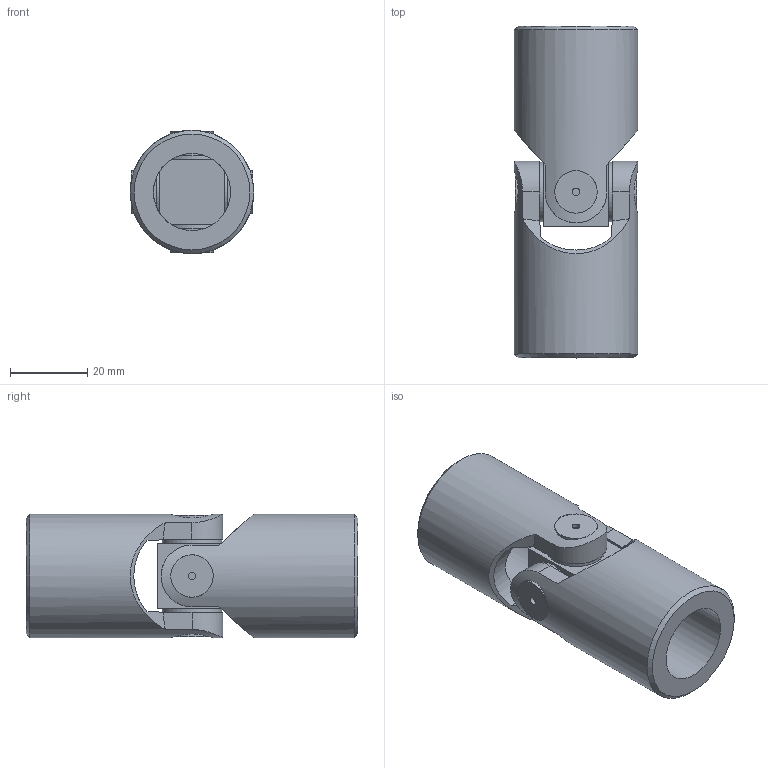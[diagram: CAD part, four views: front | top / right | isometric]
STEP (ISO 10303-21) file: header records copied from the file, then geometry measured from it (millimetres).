
FILE_DESCRIPTION(/* description */ (''),/* implementation_level */ '2;1');
FILE_NAME(/* name */ '\\SRV2016\Societa\Stefano\Disegni 3D\Dis. Clienti\0000Catalogo 3D\01Singoli G-GB\3GB-00_SGBS2000.stp',/* time_stamp */ '2021-11-10T14:45:36+01:00',/* author */ ('acquisti'),/* organization */ (''),/* preprocessor_version */ 'ST-DEVELOPER v15.6',/* originating_system */ 'Autodesk Inventor 2015',/* authorisation */ '');
FILE_SCHEMA (('AUTOMOTIVE_DESIGN { 1 0 10303 214 3 1 1 }'));
Length unit declared in the file: millimetre
Products named in the file (3): 1G SFE; 3GB MOS; Assieme7
Assembly tree (3 placements, depth 2):
  Assieme7
    1G SFE
    3GB MOS  x2
Bounding box: 32 x 86 x 32 mm (x, y, z)
Volume: 42281.2 mm3; surface area: 16743.3 mm2
Topology: 3 solids, 3 shells, 86 faces, 204 edges, 132 vertices
Faces by surface type: plane 40, cylinder 32, cone 10, torus 4
Full cylindrical faces by diameter (mm): 2 x4, 15.5 x4, 20 x2, 32 x2
Entity records: 1587 total; most frequent: CARTESIAN_POINT 478, DIRECTION 220, ORIENTED_EDGE 202, EDGE_CURVE 101, AXIS2_PLACEMENT_3D 95, VERTEX_POINT 71, EDGE_LOOP 68, FACE_OUTER_BOUND 50
